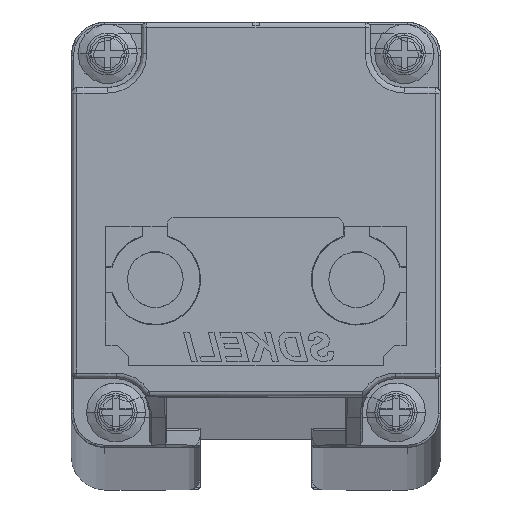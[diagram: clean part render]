
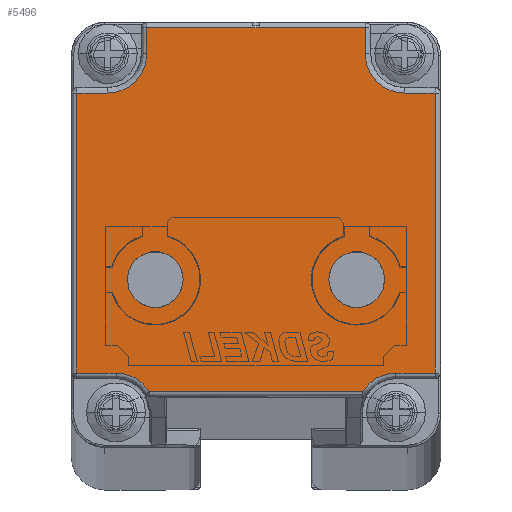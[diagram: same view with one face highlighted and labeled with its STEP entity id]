
A CAD part, top view. The second image highlights one B-rep face of the part: STEP entity #5496.
In plain terms, the highlighted planar face has unit normal (0, 0, 1).
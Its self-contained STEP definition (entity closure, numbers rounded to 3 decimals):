
#2552=CARTESIAN_POINT('',(4.,3.152,250.));
#2553=DIRECTION('',(0.,0.,1.));
#2554=DIRECTION('',(0.849,0.528,0.));
#2555=AXIS2_PLACEMENT_3D('',#2552,#2553,#2554);
#2557=CARTESIAN_POINT('',(3.25,35.15,250.));
#2558=DIRECTION('',(0.,0.,1.));
#2559=DIRECTION('',(0.,-1.,0.));
#2560=AXIS2_PLACEMENT_3D('',#2557,#2558,#2559);
#2562=CARTESIAN_POINT('',(29.75,35.15,250.));
#2563=DIRECTION('',(0.,0.,1.));
#2564=DIRECTION('',(-1.,0.,0.));
#2565=AXIS2_PLACEMENT_3D('',#2562,#2563,#2564);
#2567=CARTESIAN_POINT('',(29.,3.152,250.));
#2568=DIRECTION('',(0.,0.,1.));
#2569=DIRECTION('',(0.,1.,0.));
#2570=AXIS2_PLACEMENT_3D('',#2567,#2568,#2569);
#2572=CARTESIAN_POINT('',(7.5,15.002,250.));
#2573=DIRECTION('',(0.,0.,1.));
#2574=DIRECTION('',(1.,0.007,0.));
#2575=AXIS2_PLACEMENT_3D('',#2572,#2573,#2574);
#2577=CARTESIAN_POINT('',(7.5,15.002,250.));
#2578=DIRECTION('',(0.,0.,1.));
#2579=DIRECTION('',(-1.,-0.007,0.));
#2580=AXIS2_PLACEMENT_3D('',#2577,#2578,#2579);
#2582=CARTESIAN_POINT('',(25.5,15.,250.));
#2583=DIRECTION('',(0.,0.,1.));
#2584=DIRECTION('',(1.,-0.007,0.));
#2585=AXIS2_PLACEMENT_3D('',#2582,#2583,#2584);
#2587=CARTESIAN_POINT('',(25.5,15.,250.));
#2588=DIRECTION('',(0.,0.,1.));
#2589=DIRECTION('',(-1.,0.007,0.));
#2590=AXIS2_PLACEMENT_3D('',#2587,#2588,#2589);
#2632=DIRECTION('',(1.,0.,0.));
#2633=VECTOR('',#2632,19.056);
#2634=CARTESIAN_POINT('',(6.972,5.,250.));
#2635=LINE('',#2634,#2633);
#2957=DIRECTION('',(0.,1.,0.));
#2958=VECTOR('',#2957,2.35);
#2959=CARTESIAN_POINT('',(26.25,35.15,250.));
#2960=LINE('',#2959,#2958);
#2980=DIRECTION('',(-1.,0.,0.));
#2981=VECTOR('',#2980,19.5);
#2982=CARTESIAN_POINT('',(26.25,37.5,250.));
#2983=LINE('',#2982,#2981);
#3004=DIRECTION('',(0.,-1.,0.));
#3005=VECTOR('',#3004,2.35);
#3006=CARTESIAN_POINT('',(6.75,37.5,250.));
#3007=LINE('',#3006,#3005);
#3031=DIRECTION('',(-1.,0.,0.));
#3032=VECTOR('',#3031,2.75);
#3033=CARTESIAN_POINT('',(3.25,31.65,250.));
#3034=LINE('',#3033,#3032);
#3185=DIRECTION('',(0.,-1.,0.));
#3186=VECTOR('',#3185,24.998);
#3187=CARTESIAN_POINT('',(0.5,31.65,250.));
#3188=LINE('',#3187,#3186);
#3224=DIRECTION('',(1.,0.,0.));
#3225=VECTOR('',#3224,3.5);
#3226=CARTESIAN_POINT('',(0.5,6.652,250.));
#3227=LINE('',#3226,#3225);
#3590=DIRECTION('',(-1.,0.,0.));
#3591=VECTOR('',#3590,2.75);
#3592=CARTESIAN_POINT('',(32.5,31.65,250.));
#3593=LINE('',#3592,#3591);
#3740=DIRECTION('',(1.,0.,0.));
#3741=VECTOR('',#3740,3.5);
#3742=CARTESIAN_POINT('',(29.,6.652,250.));
#3743=LINE('',#3742,#3741);
#3775=DIRECTION('',(0.,1.,0.));
#3776=VECTOR('',#3775,24.998);
#3777=CARTESIAN_POINT('',(32.5,6.652,250.));
#3778=LINE('',#3777,#3776);
#4820=CARTESIAN_POINT('',(10.,15.018,250.));
#4821=VERTEX_POINT('',#4820);
#4822=CARTESIAN_POINT('',(5.,14.986,250.));
#4823=VERTEX_POINT('',#4822);
#4824=CARTESIAN_POINT('',(6.972,5.,250.));
#4825=CARTESIAN_POINT('',(4.,6.652,250.));
#4826=VERTEX_POINT('',#4824);
#4827=VERTEX_POINT('',#4825);
#4828=CARTESIAN_POINT('',(0.5,6.652,250.));
#4829=VERTEX_POINT('',#4828);
#4830=CARTESIAN_POINT('',(0.5,31.65,250.));
#4831=VERTEX_POINT('',#4830);
#4832=CARTESIAN_POINT('',(3.25,31.65,250.));
#4833=VERTEX_POINT('',#4832);
#4834=CARTESIAN_POINT('',(6.75,35.15,250.));
#4835=VERTEX_POINT('',#4834);
#4836=CARTESIAN_POINT('',(6.75,37.5,250.));
#4837=VERTEX_POINT('',#4836);
#4838=CARTESIAN_POINT('',(26.25,37.5,250.));
#4839=VERTEX_POINT('',#4838);
#4840=CARTESIAN_POINT('',(26.25,35.15,250.));
#4841=VERTEX_POINT('',#4840);
#4842=CARTESIAN_POINT('',(29.75,31.65,250.));
#4843=VERTEX_POINT('',#4842);
#4844=CARTESIAN_POINT('',(32.5,31.65,250.));
#4845=VERTEX_POINT('',#4844);
#4846=CARTESIAN_POINT('',(32.5,6.652,250.));
#4847=VERTEX_POINT('',#4846);
#4848=CARTESIAN_POINT('',(29.,6.652,250.));
#4849=VERTEX_POINT('',#4848);
#4850=CARTESIAN_POINT('',(26.028,5.,250.));
#4851=VERTEX_POINT('',#4850);
#4852=CARTESIAN_POINT('',(28.,14.984,250.));
#4853=CARTESIAN_POINT('',(23.,15.017,250.));
#4854=VERTEX_POINT('',#4852);
#4855=VERTEX_POINT('',#4853);
#5451=CARTESIAN_POINT('',(16.5,24.,250.));
#5452=DIRECTION('',(0.,0.,1.));
#5453=DIRECTION('',(1.,0.,0.));
#5454=AXIS2_PLACEMENT_3D('',#5451,#5452,#5453);
#5455=PLANE('',#5454);
#5457=ORIENTED_EDGE('',*,*,#5456,.T.);
#5459=ORIENTED_EDGE('',*,*,#5458,.F.);
#5461=ORIENTED_EDGE('',*,*,#5460,.F.);
#5463=ORIENTED_EDGE('',*,*,#5462,.F.);
#5465=ORIENTED_EDGE('',*,*,#5464,.T.);
#5467=ORIENTED_EDGE('',*,*,#5466,.F.);
#5469=ORIENTED_EDGE('',*,*,#5468,.F.);
#5471=ORIENTED_EDGE('',*,*,#5470,.F.);
#5473=ORIENTED_EDGE('',*,*,#5472,.T.);
#5475=ORIENTED_EDGE('',*,*,#5474,.F.);
#5477=ORIENTED_EDGE('',*,*,#5476,.F.);
#5479=ORIENTED_EDGE('',*,*,#5478,.F.);
#5481=ORIENTED_EDGE('',*,*,#5480,.T.);
#5483=ORIENTED_EDGE('',*,*,#5482,.F.);
#5484=EDGE_LOOP('',(#5457,#5459,#5461,#5463,#5465,#5467,#5469,#5471,#5473,#5475,
#5477,#5479,#5481,#5483));
#5485=FACE_OUTER_BOUND('',#5484,.F.);
#5486=ORIENTED_EDGE('',*,*,#5438,.T.);
#5487=ORIENTED_EDGE('',*,*,#5399,.T.);
#5488=EDGE_LOOP('',(#5486,#5487));
#5489=FACE_BOUND('',#5488,.F.);
#5491=ORIENTED_EDGE('',*,*,#5490,.T.);
#5493=ORIENTED_EDGE('',*,*,#5492,.T.);
#5494=EDGE_LOOP('',(#5491,#5493));
#5495=FACE_BOUND('',#5494,.F.);
#2556=CIRCLE('',#2555,3.5);
#2561=CIRCLE('',#2560,3.5);
#2566=CIRCLE('',#2565,3.5);
#2571=CIRCLE('',#2570,3.5);
#2576=CIRCLE('',#2575,2.5);
#2581=CIRCLE('',#2580,2.5);
#2586=CIRCLE('',#2585,2.5);
#2591=CIRCLE('',#2590,2.5);
#5399=EDGE_CURVE('',#4823,#4821,#2581,.T.);
#5438=EDGE_CURVE('',#4821,#4823,#2576,.T.);
#5456=EDGE_CURVE('',#4826,#4827,#2556,.T.);
#5458=EDGE_CURVE('',#4829,#4827,#3227,.T.);
#5460=EDGE_CURVE('',#4831,#4829,#3188,.T.);
#5462=EDGE_CURVE('',#4833,#4831,#3034,.T.);
#5464=EDGE_CURVE('',#4833,#4835,#2561,.T.);
#5466=EDGE_CURVE('',#4837,#4835,#3007,.T.);
#5468=EDGE_CURVE('',#4839,#4837,#2983,.T.);
#5470=EDGE_CURVE('',#4841,#4839,#2960,.T.);
#5472=EDGE_CURVE('',#4841,#4843,#2566,.T.);
#5474=EDGE_CURVE('',#4845,#4843,#3593,.T.);
#5476=EDGE_CURVE('',#4847,#4845,#3778,.T.);
#5478=EDGE_CURVE('',#4849,#4847,#3743,.T.);
#5480=EDGE_CURVE('',#4849,#4851,#2571,.T.);
#5482=EDGE_CURVE('',#4826,#4851,#2635,.T.);
#5490=EDGE_CURVE('',#4854,#4855,#2586,.T.);
#5492=EDGE_CURVE('',#4855,#4854,#2591,.T.);
#5496=ADVANCED_FACE('',(#5485,#5489,#5495),#5455,.T.);
